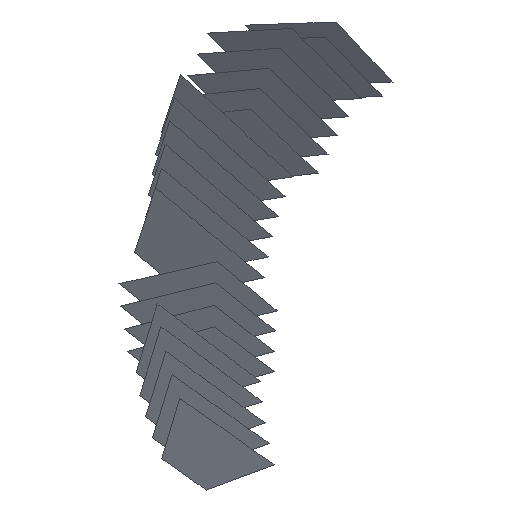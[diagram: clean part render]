
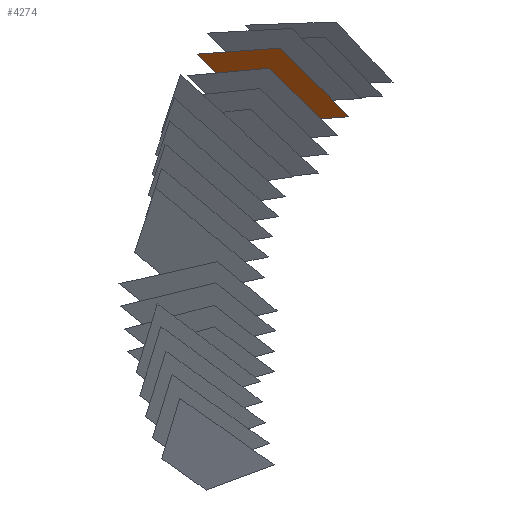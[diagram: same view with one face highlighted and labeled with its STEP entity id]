
A CAD part, isometric view. The second image highlights one B-rep face of the part: STEP entity #4274.
In plain terms, the highlighted free-form (B-spline) face has degree [1, 1] with [2, 2] control points.
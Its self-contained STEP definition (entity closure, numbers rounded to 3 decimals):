
#4274 = ADVANCED_FACE('',(#4275),#4288,.T.);
#4275 = FACE_BOUND('',#4276,.T.);
#4276 = EDGE_LOOP('',(#4277,#4298,#4312,#4326,#4340,#4354,#4368,#4382,
    #4396,#4410,#4424));
#4277 = ORIENTED_EDGE('',*,*,#4278,.T.);
#4278 = EDGE_CURVE('',#4279,#4281,#4283,.T.);
#4279 = VERTEX_POINT('',#4280);
#4280 = CARTESIAN_POINT('',(58.189,71.444,
    20.345));
#4281 = VERTEX_POINT('',#4282);
#4282 = CARTESIAN_POINT('',(58.41,71.066,
    19.905));
#4283 = SURFACE_CURVE('',#4284,(#4287),.PCURVE_S1.);
#4284 = B_SPLINE_CURVE_WITH_KNOTS('',1,(#4285,#4286),.UNSPECIFIED.,.F.,
  .F.,(2,2),(0.,0.621),.PIECEWISE_BEZIER_KNOTS.);
#4285 = CARTESIAN_POINT('',(58.189,71.444,
    20.345));
#4286 = CARTESIAN_POINT('',(58.41,71.066,
    19.905));
#4287 = PCURVE('',#4288,#4293);
#4288 = B_SPLINE_SURFACE_WITH_KNOTS('',1,1,(
    (#4289,#4290)
    ,(#4291,#4292
    )),.UNSPECIFIED.,.F.,.F.,.F.,(2,2),(2,2),(-3.16,
    3.159),(-5.262,5.263),
  .PIECEWISE_BEZIER_KNOTS.);
#4289 = CARTESIAN_POINT('',(55.281,76.406,
    14.028));
#4290 = CARTESIAN_POINT('',(60.596,67.322,
    14.024));
#4291 = CARTESIAN_POINT('',(55.286,76.406,
    20.347));
#4292 = CARTESIAN_POINT('',(60.601,67.322,
    20.344));
#4293 = DEFINITIONAL_REPRESENTATION('',(#4294),#4297);
#4294 = B_SPLINE_CURVE_WITH_KNOTS('',1,(#4295,#4296),.UNSPECIFIED.,.F.,
  .F.,(2,2),(0.,0.621),.PIECEWISE_BEZIER_KNOTS.);
#4295 = CARTESIAN_POINT('',(3.159,0.487));
#4296 = CARTESIAN_POINT('',(2.719,0.925));
#4297 = ( GEOMETRIC_REPRESENTATION_CONTEXT(2) 
PARAMETRIC_REPRESENTATION_CONTEXT() REPRESENTATION_CONTEXT('2D SPACE',''
  ) );
#4298 = ORIENTED_EDGE('',*,*,#4299,.T.);
#4299 = EDGE_CURVE('',#4281,#4300,#4302,.T.);
#4300 = VERTEX_POINT('',#4301);
#4301 = CARTESIAN_POINT('',(58.765,70.458,
    19.198));
#4302 = SURFACE_CURVE('',#4303,(#4306),.PCURVE_S1.);
#4303 = B_SPLINE_CURVE_WITH_KNOTS('',1,(#4304,#4305),.UNSPECIFIED.,.F.,
  .F.,(2,2),(-0.999,-0.),.PIECEWISE_BEZIER_KNOTS.);
#4304 = CARTESIAN_POINT('',(58.41,71.066,
    19.905));
#4305 = CARTESIAN_POINT('',(58.765,70.458,
    19.198));
#4306 = PCURVE('',#4288,#4307);
#4307 = DEFINITIONAL_REPRESENTATION('',(#4308),#4311);
#4308 = B_SPLINE_CURVE_WITH_KNOTS('',1,(#4309,#4310),.UNSPECIFIED.,.F.,
  .F.,(2,2),(-0.999,-0.),.PIECEWISE_BEZIER_KNOTS.);
#4309 = CARTESIAN_POINT('',(2.719,0.925));
#4310 = CARTESIAN_POINT('',(2.012,1.63));
#4311 = ( GEOMETRIC_REPRESENTATION_CONTEXT(2) 
PARAMETRIC_REPRESENTATION_CONTEXT() REPRESENTATION_CONTEXT('2D SPACE',''
  ) );
#4312 = ORIENTED_EDGE('',*,*,#4313,.T.);
#4313 = EDGE_CURVE('',#4300,#4314,#4316,.T.);
#4314 = VERTEX_POINT('',#4315);
#4315 = CARTESIAN_POINT('',(59.121,69.849,
    18.49));
#4316 = SURFACE_CURVE('',#4317,(#4320),.PCURVE_S1.);
#4317 = B_SPLINE_CURVE_WITH_KNOTS('',1,(#4318,#4319),.UNSPECIFIED.,.F.,
  .F.,(2,2),(-0.999,-0.),.PIECEWISE_BEZIER_KNOTS.);
#4318 = CARTESIAN_POINT('',(58.765,70.458,
    19.198));
#4319 = CARTESIAN_POINT('',(59.121,69.849,
    18.49));
#4320 = PCURVE('',#4288,#4321);
#4321 = DEFINITIONAL_REPRESENTATION('',(#4322),#4325);
#4322 = B_SPLINE_CURVE_WITH_KNOTS('',1,(#4323,#4324),.UNSPECIFIED.,.F.,
  .F.,(2,2),(-0.999,-0.),.PIECEWISE_BEZIER_KNOTS.);
#4323 = CARTESIAN_POINT('',(2.012,1.63));
#4324 = CARTESIAN_POINT('',(1.304,2.335));
#4325 = ( GEOMETRIC_REPRESENTATION_CONTEXT(2) 
PARAMETRIC_REPRESENTATION_CONTEXT() REPRESENTATION_CONTEXT('2D SPACE',''
  ) );
#4326 = ORIENTED_EDGE('',*,*,#4327,.T.);
#4327 = EDGE_CURVE('',#4314,#4328,#4330,.T.);
#4328 = VERTEX_POINT('',#4329);
#4329 = CARTESIAN_POINT('',(59.477,69.241,
    17.783));
#4330 = SURFACE_CURVE('',#4331,(#4334),.PCURVE_S1.);
#4331 = B_SPLINE_CURVE_WITH_KNOTS('',1,(#4332,#4333),.UNSPECIFIED.,.F.,
  .F.,(2,2),(-0.999,-0.),.PIECEWISE_BEZIER_KNOTS.);
#4332 = CARTESIAN_POINT('',(59.121,69.849,
    18.49));
#4333 = CARTESIAN_POINT('',(59.477,69.241,
    17.783));
#4334 = PCURVE('',#4288,#4335);
#4335 = DEFINITIONAL_REPRESENTATION('',(#4336),#4339);
#4336 = B_SPLINE_CURVE_WITH_KNOTS('',1,(#4337,#4338),.UNSPECIFIED.,.F.,
  .F.,(2,2),(-0.999,-0.),.PIECEWISE_BEZIER_KNOTS.);
#4337 = CARTESIAN_POINT('',(1.304,2.335));
#4338 = CARTESIAN_POINT('',(0.598,3.04));
#4339 = ( GEOMETRIC_REPRESENTATION_CONTEXT(2) 
PARAMETRIC_REPRESENTATION_CONTEXT() REPRESENTATION_CONTEXT('2D SPACE',''
  ) );
#4340 = ORIENTED_EDGE('',*,*,#4341,.T.);
#4341 = EDGE_CURVE('',#4328,#4342,#4344,.T.);
#4342 = VERTEX_POINT('',#4343);
#4343 = CARTESIAN_POINT('',(59.832,68.632,
    17.076));
#4344 = SURFACE_CURVE('',#4345,(#4348),.PCURVE_S1.);
#4345 = B_SPLINE_CURVE_WITH_KNOTS('',1,(#4346,#4347),.UNSPECIFIED.,.F.,
  .F.,(2,2),(-0.999,-0.),.PIECEWISE_BEZIER_KNOTS.);
#4346 = CARTESIAN_POINT('',(59.477,69.241,
    17.783));
#4347 = CARTESIAN_POINT('',(59.832,68.632,
    17.076));
#4348 = PCURVE('',#4288,#4349);
#4349 = DEFINITIONAL_REPRESENTATION('',(#4350),#4353);
#4350 = B_SPLINE_CURVE_WITH_KNOTS('',1,(#4351,#4352),.UNSPECIFIED.,.F.,
  .F.,(2,2),(-0.999,-0.),.PIECEWISE_BEZIER_KNOTS.);
#4351 = CARTESIAN_POINT('',(0.598,3.04));
#4352 = CARTESIAN_POINT('',(-0.109,3.745));
#4353 = ( GEOMETRIC_REPRESENTATION_CONTEXT(2) 
PARAMETRIC_REPRESENTATION_CONTEXT() REPRESENTATION_CONTEXT('2D SPACE',''
  ) );
#4354 = ORIENTED_EDGE('',*,*,#4355,.T.);
#4355 = EDGE_CURVE('',#4342,#4356,#4358,.T.);
#4356 = VERTEX_POINT('',#4357);
#4357 = CARTESIAN_POINT('',(60.188,68.023,
    16.369));
#4358 = SURFACE_CURVE('',#4359,(#4362),.PCURVE_S1.);
#4359 = B_SPLINE_CURVE_WITH_KNOTS('',1,(#4360,#4361),.UNSPECIFIED.,.F.,
  .F.,(2,2),(-0.999,-0.),.PIECEWISE_BEZIER_KNOTS.);
#4360 = CARTESIAN_POINT('',(59.832,68.632,
    17.076));
#4361 = CARTESIAN_POINT('',(60.188,68.023,
    16.369));
#4362 = PCURVE('',#4288,#4363);
#4363 = DEFINITIONAL_REPRESENTATION('',(#4364),#4367);
#4364 = B_SPLINE_CURVE_WITH_KNOTS('',1,(#4365,#4366),.UNSPECIFIED.,.F.,
  .F.,(2,2),(-0.999,-0.),.PIECEWISE_BEZIER_KNOTS.);
#4365 = CARTESIAN_POINT('',(-0.109,3.745));
#4366 = CARTESIAN_POINT('',(-0.816,4.451));
#4367 = ( GEOMETRIC_REPRESENTATION_CONTEXT(2) 
PARAMETRIC_REPRESENTATION_CONTEXT() REPRESENTATION_CONTEXT('2D SPACE',''
  ) );
#4368 = ORIENTED_EDGE('',*,*,#4369,.T.);
#4369 = EDGE_CURVE('',#4356,#4370,#4372,.T.);
#4370 = VERTEX_POINT('',#4371);
#4371 = CARTESIAN_POINT('',(60.544,67.414,
    15.662));
#4372 = SURFACE_CURVE('',#4373,(#4376),.PCURVE_S1.);
#4373 = B_SPLINE_CURVE_WITH_KNOTS('',1,(#4374,#4375),.UNSPECIFIED.,.F.,
  .F.,(2,2),(-0.999,-0.),.PIECEWISE_BEZIER_KNOTS.);
#4374 = CARTESIAN_POINT('',(60.188,68.023,
    16.369));
#4375 = CARTESIAN_POINT('',(60.544,67.414,
    15.662));
#4376 = PCURVE('',#4288,#4377);
#4377 = DEFINITIONAL_REPRESENTATION('',(#4378),#4381);
#4378 = B_SPLINE_CURVE_WITH_KNOTS('',1,(#4379,#4380),.UNSPECIFIED.,.F.,
  .F.,(2,2),(-0.999,-0.),.PIECEWISE_BEZIER_KNOTS.);
#4379 = CARTESIAN_POINT('',(-0.816,4.451));
#4380 = CARTESIAN_POINT('',(-1.522,5.157));
#4381 = ( GEOMETRIC_REPRESENTATION_CONTEXT(2) 
PARAMETRIC_REPRESENTATION_CONTEXT() REPRESENTATION_CONTEXT('2D SPACE',''
  ) );
#4382 = ORIENTED_EDGE('',*,*,#4383,.T.);
#4383 = EDGE_CURVE('',#4370,#4384,#4386,.T.);
#4384 = VERTEX_POINT('',#4385);
#4385 = CARTESIAN_POINT('',(60.598,67.322,
    15.556));
#4386 = SURFACE_CURVE('',#4387,(#4390),.PCURVE_S1.);
#4387 = B_SPLINE_CURVE_WITH_KNOTS('',1,(#4388,#4389),.UNSPECIFIED.,.F.,
  .F.,(2,2),(-0.15,-0.),.PIECEWISE_BEZIER_KNOTS.);
#4388 = CARTESIAN_POINT('',(60.544,67.414,
    15.662));
#4389 = CARTESIAN_POINT('',(60.598,67.322,
    15.556));
#4390 = PCURVE('',#4288,#4391);
#4391 = DEFINITIONAL_REPRESENTATION('',(#4392),#4395);
#4392 = B_SPLINE_CURVE_WITH_KNOTS('',1,(#4393,#4394),.UNSPECIFIED.,.F.,
  .F.,(2,2),(-0.15,-0.),.PIECEWISE_BEZIER_KNOTS.);
#4393 = CARTESIAN_POINT('',(-1.522,5.157));
#4394 = CARTESIAN_POINT('',(-1.629,5.263));
#4395 = ( GEOMETRIC_REPRESENTATION_CONTEXT(2) 
PARAMETRIC_REPRESENTATION_CONTEXT() REPRESENTATION_CONTEXT('2D SPACE',''
  ) );
#4396 = ORIENTED_EDGE('',*,*,#4397,.T.);
#4397 = EDGE_CURVE('',#4384,#4398,#4400,.T.);
#4398 = VERTEX_POINT('',#4399);
#4399 = CARTESIAN_POINT('',(57.693,72.284,
    14.026));
#4400 = SURFACE_CURVE('',#4401,(#4404),.PCURVE_S1.);
#4401 = B_SPLINE_CURVE_WITH_KNOTS('',1,(#4402,#4403),.UNSPECIFIED.,.F.,
  .F.,(2,2),(-5.949,-0.),.PIECEWISE_BEZIER_KNOTS.);
#4402 = CARTESIAN_POINT('',(60.598,67.322,
    15.556));
#4403 = CARTESIAN_POINT('',(57.693,72.284,
    14.026));
#4404 = PCURVE('',#4288,#4405);
#4405 = DEFINITIONAL_REPRESENTATION('',(#4406),#4409);
#4406 = B_SPLINE_CURVE_WITH_KNOTS('',1,(#4407,#4408),.UNSPECIFIED.,.F.,
  .F.,(2,2),(-5.949,-0.),.PIECEWISE_BEZIER_KNOTS.);
#4407 = CARTESIAN_POINT('',(-1.629,5.263));
#4408 = CARTESIAN_POINT('',(-3.16,-0.486));
#4409 = ( GEOMETRIC_REPRESENTATION_CONTEXT(2) 
PARAMETRIC_REPRESENTATION_CONTEXT() REPRESENTATION_CONTEXT('2D SPACE',''
  ) );
#4410 = ORIENTED_EDGE('',*,*,#4411,.T.);
#4411 = EDGE_CURVE('',#4398,#4412,#4414,.T.);
#4412 = VERTEX_POINT('',#4413);
#4413 = CARTESIAN_POINT('',(55.285,76.406,
    18.819));
#4414 = SURFACE_CURVE('',#4415,(#4418),.PCURVE_S1.);
#4415 = B_SPLINE_CURVE_WITH_KNOTS('',1,(#4416,#4417),.UNSPECIFIED.,.F.,
  .F.,(2,2),(0.,6.765),.PIECEWISE_BEZIER_KNOTS.);
#4416 = CARTESIAN_POINT('',(57.693,72.284,
    14.026));
#4417 = CARTESIAN_POINT('',(55.285,76.406,
    18.819));
#4418 = PCURVE('',#4288,#4419);
#4419 = DEFINITIONAL_REPRESENTATION('',(#4420),#4423);
#4420 = B_SPLINE_CURVE_WITH_KNOTS('',1,(#4421,#4422),.UNSPECIFIED.,.F.,
  .F.,(2,2),(0.,6.765),.PIECEWISE_BEZIER_KNOTS.);
#4421 = CARTESIAN_POINT('',(-3.16,-0.486));
#4422 = CARTESIAN_POINT('',(1.631,-5.262));
#4423 = ( GEOMETRIC_REPRESENTATION_CONTEXT(2) 
PARAMETRIC_REPRESENTATION_CONTEXT() REPRESENTATION_CONTEXT('2D SPACE',''
  ) );
#4424 = ORIENTED_EDGE('',*,*,#4425,.T.);
#4425 = EDGE_CURVE('',#4412,#4279,#4426,.T.);
#4426 = SURFACE_CURVE('',#4427,(#4430),.PCURVE_S1.);
#4427 = B_SPLINE_CURVE_WITH_KNOTS('',1,(#4428,#4429),.UNSPECIFIED.,.F.,
  .F.,(2,2),(-5.949,-0.),.PIECEWISE_BEZIER_KNOTS.);
#4428 = CARTESIAN_POINT('',(55.285,76.406,
    18.819));
#4429 = CARTESIAN_POINT('',(58.189,71.444,
    20.345));
#4430 = PCURVE('',#4288,#4431);
#4431 = DEFINITIONAL_REPRESENTATION('',(#4432),#4435);
#4432 = B_SPLINE_CURVE_WITH_KNOTS('',1,(#4433,#4434),.UNSPECIFIED.,.F.,
  .F.,(2,2),(-5.949,-0.),.PIECEWISE_BEZIER_KNOTS.);
#4433 = CARTESIAN_POINT('',(1.631,-5.262));
#4434 = CARTESIAN_POINT('',(3.159,0.487));
#4435 = ( GEOMETRIC_REPRESENTATION_CONTEXT(2) 
PARAMETRIC_REPRESENTATION_CONTEXT() REPRESENTATION_CONTEXT('2D SPACE',''
  ) );
